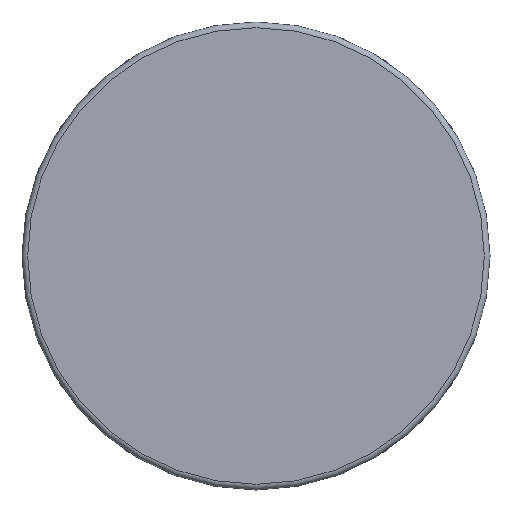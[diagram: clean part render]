
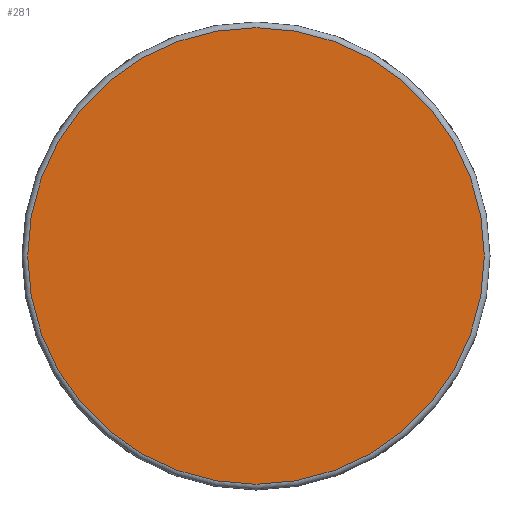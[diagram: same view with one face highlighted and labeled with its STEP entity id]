
A CAD part, front view. The second image highlights one B-rep face of the part: STEP entity #281.
In plain terms, the highlighted planar face has unit normal (0, -1, 0).
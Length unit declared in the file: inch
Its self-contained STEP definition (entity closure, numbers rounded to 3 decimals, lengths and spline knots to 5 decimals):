
#18=PLANE('',#321);
#51=FACE_OUTER_BOUND('',#68,.T.);
#68=EDGE_LOOP('',(#209,#210));
#86=CIRCLE('',#313,0.24);
#90=CIRCLE('',#317,0.24);
#122=VERTEX_POINT('',#560);
#123=VERTEX_POINT('',#561);
#153=EDGE_CURVE('',#122,#123,#86,.T.);
#157=EDGE_CURVE('',#123,#122,#90,.T.);
#209=ORIENTED_EDGE('',*,*,#153,.F.);
#210=ORIENTED_EDGE('',*,*,#157,.F.);
#281=ADVANCED_FACE('',(#51),#18,.T.);
#313=AXIS2_PLACEMENT_3D('',#562,#370,#371);
#317=AXIS2_PLACEMENT_3D('',#568,#378,#379);
#321=AXIS2_PLACEMENT_3D('',#575,#387,#388);
#370=DIRECTION('center_axis',(0.,1.,0.));
#371=DIRECTION('ref_axis',(0.,0.,1.));
#378=DIRECTION('center_axis',(0.,1.,0.));
#379=DIRECTION('ref_axis',(0.,0.,1.));
#387=DIRECTION('center_axis',(0.,-1.,0.));
#388=DIRECTION('ref_axis',(0.,0.,-1.));
#560=CARTESIAN_POINT('',(0.,0.,-0.24));
#561=CARTESIAN_POINT('',(0.,0.,0.24));
#562=CARTESIAN_POINT('Origin',(0.,0.,0.));
#568=CARTESIAN_POINT('Origin',(0.,0.,0.));
#575=CARTESIAN_POINT('Origin',(0.,0.,0.));
